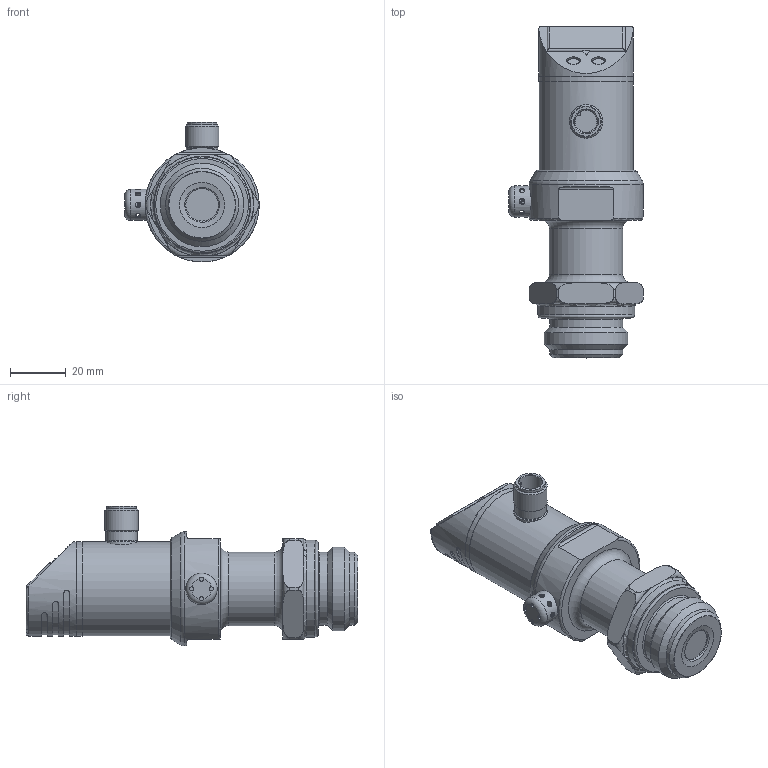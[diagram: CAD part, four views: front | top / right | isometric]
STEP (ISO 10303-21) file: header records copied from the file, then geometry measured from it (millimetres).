
FILE_DESCRIPTION( ( 'STEP AP203' ), '1' );
FILE_NAME( 'p:/temp/worker_129/temp/exporttempdir_1188_97_AauYU/format_3/PI2093.stp', '2020-04-06T10:55:30', ( 'License CC BY-ND 4.0' ), ( 'CADENAS' ), ' ', 'PARTsolutions', ' ' );
FILE_SCHEMA( ( 'CONFIG_CONTROL_DESIGN' ) );
Length unit declared in the file: millimetre
Products named in the file (1): _PI2093
Bounding box: 48.25 x 119.2 x 50.25 mm (x, y, z)
Volume: 101357 mm3; surface area: 17341.9 mm2
Topology: 1 solids, 1 shells, 185 faces, 482 edges, 304 vertices
Faces by surface type: cylinder 86, plane 56, torus 31, cone 12
Full cylindrical faces by diameter (mm): 1.5 x5, 2 x8, 2.4 x1, 3 x1, 8.4 x1, 10 x1, 10.6 x1, 11.2 x1, 11.3 x1, 11.65 x1, 12 x1, 26.2 x2, 26.4 x1, 30 x1, 33.8 x1, 33.9 x2, 34 x1, 34.9 x1, 41 x1
Entity records: 6733 total; most frequent: CARTESIAN_POINT 2575, DIRECTION 861, ORIENTED_EDGE 784, EDGE_CURVE 392, AXIS2_PLACEMENT_3D 380, VERTEX_POINT 278, EDGE_LOOP 275, FACE_OUTER_BOUND 232
